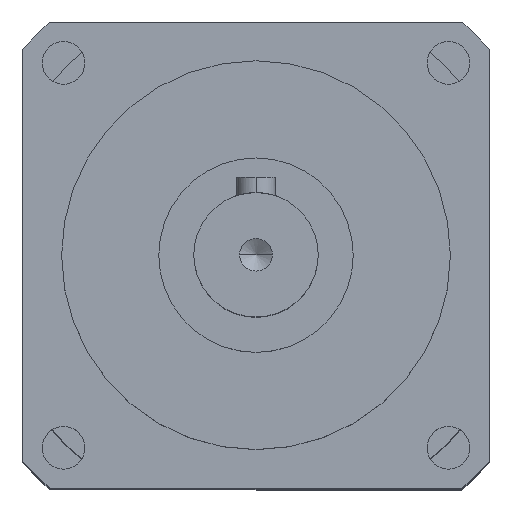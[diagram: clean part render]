
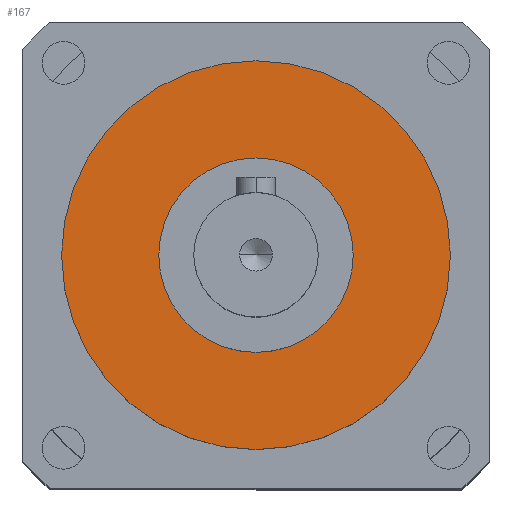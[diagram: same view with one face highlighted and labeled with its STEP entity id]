
A CAD part, top view. The second image highlights one B-rep face of the part: STEP entity #167.
In plain terms, the highlighted planar face has unit normal (0, 0, 1).
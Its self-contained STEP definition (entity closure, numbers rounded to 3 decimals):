
#167 = ADVANCED_FACE ( 'NONE', ( #4027 ), #4479, .T. ) ;
#1791 = EDGE_CURVE ( 'NONE', #2568, #2391, #7457, .T. ) ;
#2210 = ORIENTED_EDGE ( 'NONE', *, *, #1791, .F. ) ;
#2214 = ORIENTED_EDGE ( 'NONE', *, *, #3131, .F. ) ;
#2252 = EDGE_LOOP ( 'NONE', ( #2210, #2214 ) ) ;
#2391 = VERTEX_POINT ( 'NONE', #7402 ) ;
#2568 = VERTEX_POINT ( 'NONE', #8484 ) ;
#3131 = EDGE_CURVE ( 'NONE', #2391, #2568, #7743, .T. ) ;
#3554 = AXIS2_PLACEMENT_3D ( 'NONE', #4477, #4481, #4482 ) ;
#4027 = FACE_OUTER_BOUND ( 'NONE', #2252, .T. ) ;
#4477 = CARTESIAN_POINT ( 'NONE',  ( 0., 0., 7. ) ) ;
#4479 = PLANE ( 'NONE',  #3554 ) ;
#4481 = DIRECTION ( 'NONE',  ( 0., 0., 1. ) ) ;
#4482 = DIRECTION ( 'NONE',  ( 1., 0., 0. ) ) ;
#5331 = AXIS2_PLACEMENT_3D ( 'NONE', #7099, #7100, #7101 ) ;
#7099 = CARTESIAN_POINT ( 'NONE',  ( 0., 0., 7. ) ) ;
#7100 = DIRECTION ( 'NONE',  ( 0., 0., -1. ) ) ;
#7101 = DIRECTION ( 'NONE',  ( -1., 0., 0. ) ) ;
#7402 = CARTESIAN_POINT ( 'NONE',  ( 25., 0., 7. ) ) ;
#7457 = CIRCLE ( 'NONE', #5331, 25. ) ;
#7743 = CIRCLE ( 'NONE', #8667, 25. ) ;
#8484 = CARTESIAN_POINT ( 'NONE',  ( -25., 0., 7. ) ) ;
#8535 = CARTESIAN_POINT ( 'NONE',  ( 0., 0., 7. ) ) ;
#8536 = DIRECTION ( 'NONE',  ( 0., 0., -1. ) ) ;
#8537 = DIRECTION ( 'NONE',  ( -1., 0., 0. ) ) ;
#8667 = AXIS2_PLACEMENT_3D ( 'NONE', #8535, #8536, #8537 ) ;
